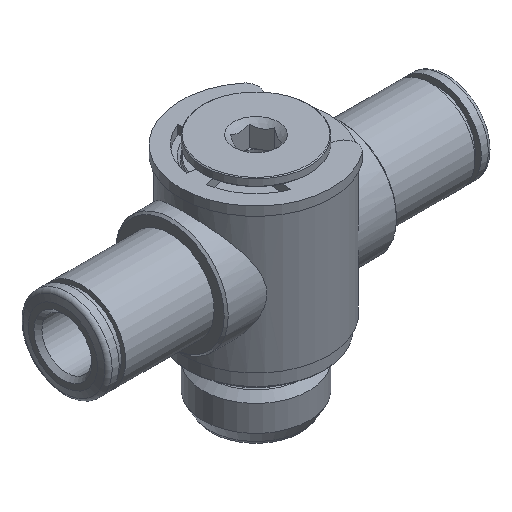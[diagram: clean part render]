
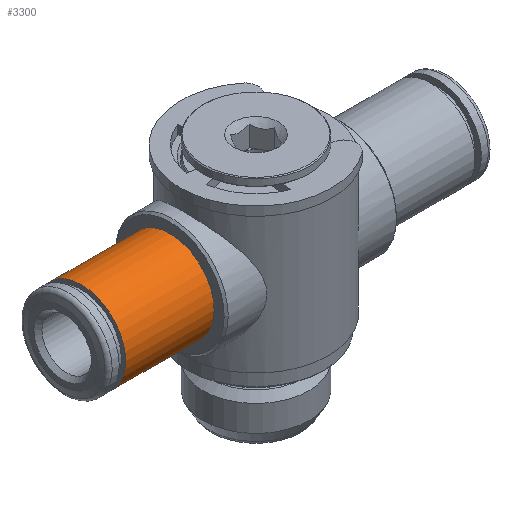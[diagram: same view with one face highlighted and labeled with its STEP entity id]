
A CAD part, isometric view. The second image highlights one B-rep face of the part: STEP entity #3300.
In plain terms, the highlighted cylindrical face has radius 5.5 mm (diameter 11 mm), a full revolution.
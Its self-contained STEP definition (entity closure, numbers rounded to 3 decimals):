
#3300=ADVANCED_FACE('', (#3310,#3320), #3330, .T.);
#11160=AXIS2_PLACEMENT_3D('Ax2Pl3d', #11170, #11180, #11190);
#12080=AXIS2_PLACEMENT_3D('Ax2Pl3d', #12090, #12100, #12110);
#12120=AXIS2_PLACEMENT_3D('Ax2Pl3d', #12130, #12140, #12150);
#11170=CARTESIAN_POINT('HicPkt', (10.584,20.201,
12.219));
#70680=CARTESIAN_POINT('', (10.584,20.201,6.719));
#12090=CARTESIAN_POINT('HicPkt', (21.584,20.201,
12.219));
#70790=CARTESIAN_POINT('', (21.584,20.201,6.719));
#12130=CARTESIAN_POINT('HicPkt', (10.584,20.201,
12.219));
#72250=CIRCLE('Circle', #11160, 5.5);
#72360=CIRCLE('Circle', #12080, 5.5);
#3330=CYLINDRICAL_SURFACE('Zyl', #12120, 5.5);
#11180=DIRECTION('Axis', (1.,0.,0.));
#11190=DIRECTION('RefDirection', (0.,0.,-1.));
#12100=DIRECTION('Axis', (1.,0.,0.));
#12110=DIRECTION('RefDirection', (0.,0.,-1.));
#12140=DIRECTION('Axis', (1.,0.,0.));
#12150=DIRECTION('RefDirection', (0.,0.,-1.));
#80640=EDGE_CURVE('', #80650, #80650, #72250, .T.);
#80860=EDGE_CURVE('', #80870, #80870, #72360, .T.);
#86020=EDGE_LOOP('Edge_loop', (#86030));
#86040=EDGE_LOOP('Edge_loop', (#86050));
#3320=FACE_BOUND('', #86040, .T.);
#3310=FACE_OUTER_BOUND('Face_outer_bound', #86020, .T.);
#86030=ORIENTED_EDGE('', *, *, #80860, .F.);
#86050=ORIENTED_EDGE('', *, *, #80640, .T.);
#80650=VERTEX_POINT('', #70680);
#80870=VERTEX_POINT('', #70790);
